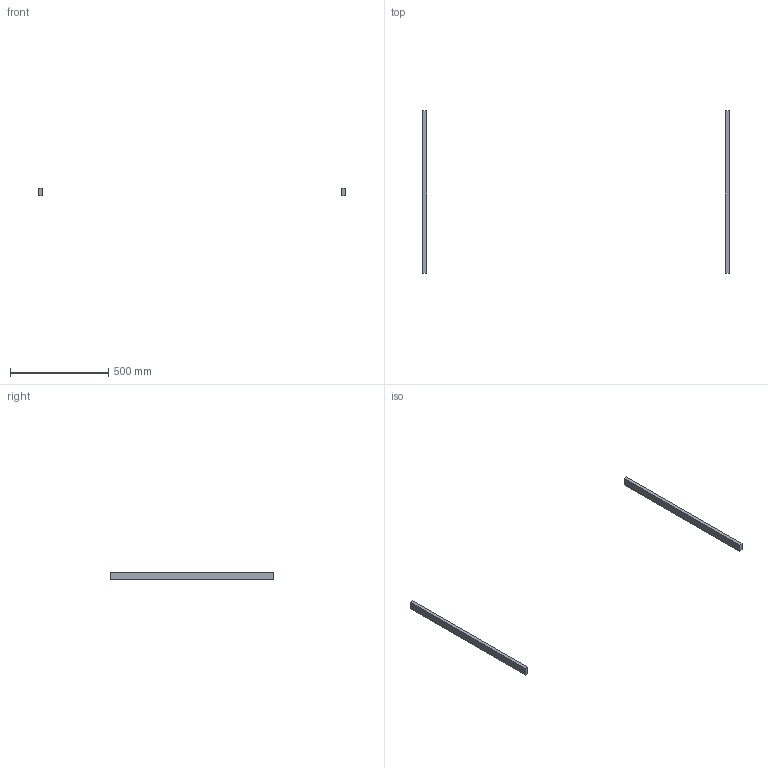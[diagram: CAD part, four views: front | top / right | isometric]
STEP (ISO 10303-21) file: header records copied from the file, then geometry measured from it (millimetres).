
FILE_DESCRIPTION(/* description */ (''),/* implementation_level */ '2;1');
FILE_NAME(/* name */ '4.frame-door#4.1#HFS5-2040-830',/* time_stamp */ '2014-12-01T20:12:28+01:00',/* author */ (''),/* organization */ (''),/* preprocessor_version */ 'ST-DEVELOPER v14',/* originating_system */ '',/* authorisation */ '');
FILE_SCHEMA (('AUTOMOTIVE_DESIGN'));
Length unit declared in the file: millimetre
Products named in the file (1): Document
Bounding box: 1564 x 830 x 40 mm (x, y, z)
Volume: 1328000 mm3; surface area: 202400 mm2
Topology: 2 solids, 2 shells, 12 faces, 24 edges, 16 vertices
Faces by surface type: plane 12
Entity records: 571 total; most frequent: CARTESIAN_POINT 174, B_SPLINE_CURVE_WITH_KNOTS 72, ORIENTED_EDGE 48, PCURVE 48, DEFINITIONAL_REPRESENTATION 48, SURFACE_CURVE 24, EDGE_CURVE 24, VERTEX_POINT 16
